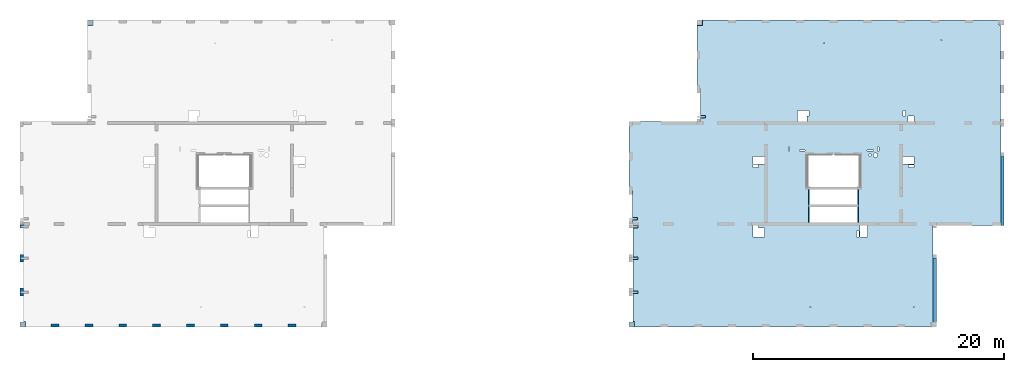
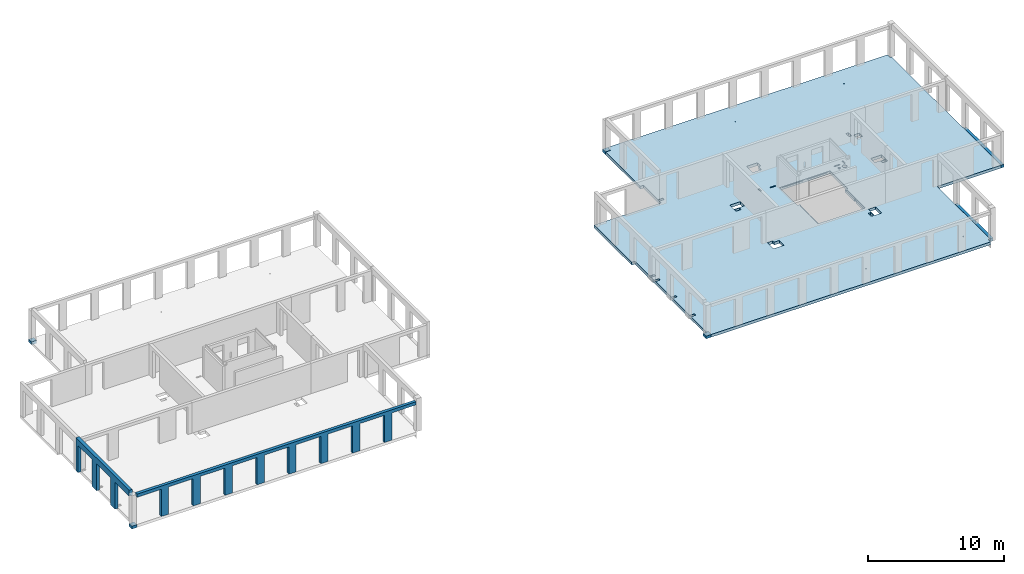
# One storey, part 2 of 13: 7 slabs, 2 walls, 46 openings.
"""IFC2X3 building model written with IfcOpenShell, lengths in millimetres."""

import ifcopenshell
import ifcopenshell.guid

model = None  # the IFC model being written
_history = None  # IfcOwnerHistory: only IFC2X3 demands one
_inside = {}  # id of a spatial element -> (the spatial element, [elements in it])
_under = {}  # id of a project, library or spatial element -> (it, [spatial elements below it])
_declared = {}  # id of a project -> (the project, [libraries it declares])
_typed = {}  # id of a type object -> (the type object, [elements of that type])
_made_of = {}  # id of a material, layer set ... -> (it, [elements and type objects made of it])


def new_model(schema):
    """Start an empty IFC model of exactly this schema.

    Asked for "IFC4X3", IfcOpenShell would pick the latest addendum, in which some entities
    have other attributes; the version numbers below select the first issue.
    IFC2X3 requires an IfcOwnerHistory on every rooted entity: one is made here for all.
    """
    global model, _history
    if schema == "IFC4X3":
        model = ifcopenshell.file(schema_version=(4, 3, 0, 0))
    else:
        model = ifcopenshell.file(schema=schema)
    _inside.clear()
    _under.clear()
    _declared.clear()
    _typed.clear()
    _made_of.clear()
    _history = None
    if model.schema == "IFC2X3":
        org = make("IfcOrganization", Name="unknown")
        user = make(
            "IfcPersonAndOrganization",
            ThePerson=make("IfcPerson", FamilyName="unknown"),
            TheOrganization=org,
        )
        app = make(
            "IfcApplication",
            ApplicationDeveloper=org,
            Version="unknown",
            ApplicationFullName="unknown",
            ApplicationIdentifier="unknown",
        )
        _history = make(
            "IfcOwnerHistory",
            OwningUser=user,
            OwningApplication=app,
            ChangeAction="ADDED",
            CreationDate=0,
        )
    return model


def make(cls, **values):
    """One entity of the class cls with the attributes given. An attribute that is None is left unset."""
    return model.create_entity(
        cls, **{name: value for name, value in values.items() if value is not None}
    )


def entity(cls, *values):
    """Any entity or typed value of the class cls, its attributes in the order of the schema. None: left unset."""
    e = model.create_entity(cls)
    for i, value in enumerate(values):
        if value is not None:
            e[i] = value
    return e


def rooted(cls, **values):
    """An entity with a GlobalId (a new one), such as an element, a storey or a relation."""
    return make(cls, GlobalId=ifcopenshell.guid.new(), OwnerHistory=_history, **values)


def si_unit(unit_type, name, prefix=None):
    """IfcSIUnit, for example si_unit("LENGTHUNIT", "METRE", prefix="MILLI")."""
    return make("IfcSIUnit", UnitType=unit_type, Prefix=prefix, Name=name)


def converted_unit(unit_type, name, factor, base, dimensions=None, offset=None):
    """IfcConversionBasedUnit, such as the inch: factor (a typed value) times the base unit."""
    return make(
        "IfcConversionBasedUnit"
        if offset is None
        else "IfcConversionBasedUnitWithOffset",
        ConversionOffset=offset,
        Dimensions=None
        if dimensions is None
        else entity("IfcDimensionalExponents", *dimensions),
        UnitType=unit_type,
        Name=name,
        ConversionFactor=make(
            "IfcMeasureWithUnit", ValueComponent=factor, UnitComponent=base
        ),
    )


def derived_unit(unit_type, elements):
    """IfcDerivedUnit: a product of units, each with its exponent."""
    return make(
        "IfcDerivedUnit",
        Elements=[
            make("IfcDerivedUnitElement", Unit=unit, Exponent=power)
            for unit, power in elements
        ],
        UnitType=unit_type,
    )


def assignment(units):
    """IfcUnitAssignment: the units of a project."""
    return None if units is None else make("IfcUnitAssignment", Units=units)


def point(xyz):
    """IfcCartesianPoint."""
    return None if xyz is None else make("IfcCartesianPoint", Coordinates=xyz)


def direction(xyz):
    """IfcDirection."""
    return None if xyz is None else make("IfcDirection", DirectionRatios=xyz)


def frame(location, z_axis=None, x_axis=None):
    """IfcAxis2Placement3D, a coordinate frame: its origin and axes. An axis left out is left unset."""
    return make(
        "IfcAxis2Placement3D",
        Location=point(location),
        Axis=direction(z_axis),
        RefDirection=direction(x_axis),
    )


def frame_2d(location, x_axis=None):
    """IfcAxis2Placement2D, a coordinate frame in the plane: its origin and x axis."""
    return make(
        "IfcAxis2Placement2D", Location=point(location), RefDirection=direction(x_axis)
    )


def origin():
    """The frame at (0, 0, 0) with its axes left unset."""
    return frame((0.0, 0.0, 0.0))


def origin_2d_with_axis():
    """The frame at (0, 0) in the plane with the x axis (1, 0) written out."""
    return frame_2d((0.0, 0.0), x_axis=(1.0, 0.0))


def place(relative_to, where):
    """IfcLocalPlacement: puts the frame where relative to a parent placement (None: the world)."""
    return make(
        "IfcLocalPlacement", PlacementRelTo=relative_to, RelativePlacement=where
    )


def context(
    kind, dimensions, precision=None, world=None, true_north=None, identifier=None
):
    """IfcGeometricRepresentationContext, for example the 3D "Model" context."""
    return make(
        "IfcGeometricRepresentationContext",
        ContextIdentifier=identifier,
        ContextType=kind,
        CoordinateSpaceDimension=dimensions,
        Precision=precision,
        WorldCoordinateSystem=world,
        TrueNorth=true_north,
    )


def subcontext(parent, identifier, kind, view, scale=None):
    """IfcGeometricRepresentationSubContext, for example "Body" below "Model"."""
    return make(
        "IfcGeometricRepresentationSubContext",
        ContextIdentifier=identifier,
        ContextType=kind,
        ParentContext=parent,
        TargetScale=scale,
        TargetView=view,
    )


def project(units=None, contexts=None):
    """IfcProject with its units and contexts."""
    return rooted(
        "IfcProject",
        Name="project",
        RepresentationContexts=contexts,
        UnitsInContext=assignment(units),
    )


def spatial(cls, under=None, at=None, **own):
    """A site, building, storey or space (cls), placed at a placement, below another one or the project."""
    s = rooted(cls, ObjectPlacement=at, **own)
    if under is not None:
        _under.setdefault(under.id(), (under, []))[1].append(s)
    return s


def polyline(points):
    """IfcPolyline through the points."""
    return make("IfcPolyline", Points=[point(p) for p in points])


def profile(cls, at=None, kind="AREA", **sizes):
    """A parametric profile (cls). Its sizes go by their IFC names, for example OverallWidth=200.0."""
    return make(cls, ProfileType=kind, Position=at, **sizes)


def rectangle(**sizes):
    """IfcRectangleProfileDef."""
    return profile("IfcRectangleProfileDef", **sizes)


def circle(**sizes):
    """IfcCircleProfileDef."""
    return profile("IfcCircleProfileDef", **sizes)


def outline(outer, holes=None, kind="AREA"):
    """IfcArbitraryClosedProfileDef: a profile drawn as a closed curve; with holes, ...WithVoids."""
    if holes is None:
        return make("IfcArbitraryClosedProfileDef", ProfileType=kind, OuterCurve=outer)
    return make(
        "IfcArbitraryProfileDefWithVoids",
        ProfileType=kind,
        OuterCurve=outer,
        InnerCurves=holes,
    )


def extrude(swept, where, along, depth):
    """IfcExtrudedAreaSolid: the profile swept, set in the frame where, extruded along a direction by depth."""
    return make(
        "IfcExtrudedAreaSolid",
        SweptArea=swept,
        Position=where,
        ExtrudedDirection=direction(along),
        Depth=depth,
    )


def shape(context_of_items, identifier, shape_type, items):
    """IfcShapeRepresentation: the items that make up one representation, for example the "Body"."""
    return make(
        "IfcShapeRepresentation",
        ContextOfItems=context_of_items,
        RepresentationIdentifier=identifier,
        RepresentationType=shape_type,
        Items=items,
    )


def material(Name=None, Category=None):
    """IfcMaterial."""
    return make("IfcMaterial", Name=Name, Category=Category)


def layer(
    of_material, thickness, ventilated=None, Name=None, Category=None, Priority=None
):
    """IfcMaterialLayer: one layer of a wall or slab, of a material (None: an air gap)."""
    return make(
        "IfcMaterialLayer",
        Material=of_material,
        LayerThickness=thickness,
        IsVentilated=ventilated,
        Name=Name,
        Category=Category,
        Priority=Priority,
    )


def layer_set(layers, Name=None):
    """IfcMaterialLayerSet."""
    return make("IfcMaterialLayerSet", MaterialLayers=layers, LayerSetName=Name)


def layer_usage(for_layer_set, set_direction, sense, offset, extent=None):
    """IfcMaterialLayerSetUsage: how a layer set lies in its element."""
    return make(
        "IfcMaterialLayerSetUsage",
        ForLayerSet=for_layer_set,
        LayerSetDirection=set_direction,
        DirectionSense=sense,
        OffsetFromReferenceLine=offset,
        ReferenceExtent=extent,
    )


def made_of(thing, what):
    """Note that an element or type object is made of a material, layer set ...; save() writes the relation."""
    if what is not None:
        _made_of.setdefault(what.id(), (what, []))[1].append(thing)
    return thing


def type_object(cls, material=None, **own):
    """A type object (cls), such as IfcWallType, which elements share."""
    return made_of(rooted(cls, **own), material)


def element(
    cls,
    number,
    at=None,
    inside=None,
    cuts=None,
    type_object=None,
    material=None,
    context=None,
    identifier="Body",
    shape_type=None,
    held_by="IfcProductDefinitionShape",
    body=None,
    shapes=None,
    **own,
):
    """One element of the class cls, such as IfcWall. Its Tag is "e" and its number.

    at: its placement. inside: the storey or other place that contains it. cuts: it is an
    opening in that element (IfcRelVoidsElement). A single representation is given by context,
    identifier, shape_type and body (its items); several are given by shapes. held_by: the class
    of the entity that holds the representations. save() writes the other relations.
    """
    e = rooted(cls, Tag="e%d" % number, ObjectPlacement=at, **own)
    if body is not None:
        shapes = [shape(context, identifier, shape_type, body)]
    if shapes is not None:
        e.Representation = make(held_by, Representations=shapes)
    if inside is not None:
        _inside.setdefault(inside.id(), (inside, []))[1].append(e)
    if cuts is not None:
        rooted(
            "IfcRelVoidsElement", RelatingBuildingElement=cuts, RelatedOpeningElement=e
        )
    if type_object is not None:
        _typed.setdefault(type_object.id(), (type_object, []))[1].append(e)
    return made_of(e, material)


def aggregate(whole, parts):
    """IfcRelAggregates: a whole, such as a stair, and the parts it consists of."""
    return rooted("IfcRelAggregates", RelatingObject=whole, RelatedObjects=parts)


def save(model, path):
    """Write the relations noted so far, then the file.

    IfcRelAggregates (storeys below a building ...), IfcRelContainedInSpatialStructure (elements
    in a storey), IfcRelDefinesByType, IfcRelAssociatesMaterial and IfcRelDeclares: one each for
    every whole, place, type object, material and project.
    """
    for whole, parts in _under.values():
        aggregate(whole, parts)
    for where, things in _inside.values():
        rooted(
            "IfcRelContainedInSpatialStructure",
            RelatedElements=things,
            RelatingStructure=where,
        )
    for kind, things in _typed.values():
        rooted("IfcRelDefinesByType", RelatedObjects=things, RelatingType=kind)
    for what, things in _made_of.values():
        rooted("IfcRelAssociatesMaterial", RelatedObjects=things, RelatingMaterial=what)
    for by, libraries in _declared.values():
        rooted("IfcRelDeclares", RelatingContext=by, RelatedDefinitions=libraries)
    model.write(path)


model = new_model("IFC2X3")

# Units and contexts
model_context = context("Model", 3, precision=0.01, world=origin(), true_north=direction((6.12303176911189e-17, 1.0)))
body_context = subcontext(model_context, "Body", "Model", "MODEL_VIEW")
ifc_project = project(units=[si_unit("LENGTHUNIT", "METRE", prefix="MILLI"), si_unit("AREAUNIT", "SQUARE_METRE"), si_unit("VOLUMEUNIT", "CUBIC_METRE"), converted_unit("PLANEANGLEUNIT", "DEGREE", entity("IfcRatioMeasure", 0.0174532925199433), si_unit("PLANEANGLEUNIT", "RADIAN"), dimensions=[0, 0, 0, 0, 0, 0, 0]), si_unit("MASSUNIT", "GRAM", prefix="KILO"), derived_unit("MASSDENSITYUNIT", [(si_unit("MASSUNIT", "GRAM", prefix="KILO"), 1), (si_unit("LENGTHUNIT", "METRE"), -3)]), si_unit("TIMEUNIT", "SECOND"), si_unit("FREQUENCYUNIT", "HERTZ"), si_unit("THERMODYNAMICTEMPERATUREUNIT", "DEGREE_CELSIUS"), derived_unit("THERMALTRANSMITTANCEUNIT", [(si_unit("MASSUNIT", "GRAM", prefix="KILO"), 1), (si_unit("THERMODYNAMICTEMPERATUREUNIT", "KELVIN"), -1), (si_unit("TIMEUNIT", "SECOND"), -3)]), derived_unit("VOLUMETRICFLOWRATEUNIT", [(si_unit("LENGTHUNIT", "METRE"), 3), (si_unit("TIMEUNIT", "SECOND"), -1)]), si_unit("ELECTRICCURRENTUNIT", "AMPERE"), si_unit("ELECTRICVOLTAGEUNIT", "VOLT"), si_unit("POWERUNIT", "WATT"), si_unit("FORCEUNIT", "NEWTON", prefix="KILO"), si_unit("ILLUMINANCEUNIT", "LUX"), si_unit("LUMINOUSFLUXUNIT", "LUMEN"), si_unit("LUMINOUSINTENSITYUNIT", "CANDELA"), derived_unit("USERDEFINED", [(si_unit("MASSUNIT", "GRAM", prefix="KILO"), -1), (si_unit("LENGTHUNIT", "METRE"), -2), (si_unit("TIMEUNIT", "SECOND"), 3), (si_unit("LUMINOUSFLUXUNIT", "LUMEN"), 1)]), derived_unit("LINEARVELOCITYUNIT", [(si_unit("LENGTHUNIT", "METRE"), 1), (si_unit("TIMEUNIT", "SECOND"), -1)]), si_unit("PRESSUREUNIT", "PASCAL"), derived_unit("USERDEFINED", [(si_unit("LENGTHUNIT", "METRE"), -2), (si_unit("MASSUNIT", "GRAM", prefix="KILO"), 1), (si_unit("TIMEUNIT", "SECOND"), -2)])], contexts=[model_context])

# Site, building, storey
site_placement = place(None, origin())
site = spatial("IfcSite", under=ifc_project, at=site_placement, Name="Default", CompositionType="ELEMENT")
building_placement = place(site_placement, origin())
building = spatial("IfcBuilding", under=site, at=building_placement, Name="niet gebruiken", CompositionType="ELEMENT")
storey_placement = place(building_placement, frame((0.0, 0.0, 60120.0)))
storey = spatial("IfcBuildingStorey", under=building, at=storey_placement, Name="20 twintigste verdieping", CompositionType="ELEMENT", Elevation=60120.0)

# Slab, openings
ifc_material_1 = material(Name="NLRS_f2_beton ihwg")
ifc_layer_1 = layer(ifc_material_1, 250.0)
ifc_layer_set_1 = layer_set([ifc_layer_1], Name="Floor:NLRS_23.21_FL_beton ihwg d=250_gen")
ifc_layer_usage_1 = layer_usage(ifc_layer_set_1, "AXIS3", "POSITIVE", 0.0)
slab_1_placement = place(storey_placement, frame((75500.0, 28756.0, -340.0)))
slab_1 = element("IfcSlab", 1, at=slab_1_placement, inside=storey, material=ifc_layer_usage_1, Name="Floor:NLRS_23.21_FL_beton ihwg d=250_gen", ObjectType="Floor:NLRS_23.21_FL_beton ihwg d=250_gen", PredefinedType="FLOOR", context=body_context, shape_type="SweptSolid", body=[
    extrude(outline(polyline([(8995.0, 12250.0), (-14665.0, 12250.0), (-14665.0, 11840.0), (-14805.0, 11840.0), (-14805.0, 4060.0), (-14825.0, 4060.0), (-14825.0, -4150.0), (-9425.0, -4150.0), (-9425.0, -11890.0), (-9265.0, -11890.0), (-9265.0, -12250.0), (14395.0, -12250.0), (14395.0, -11820.0), (14535.0, -11820.0), (14535.0, -4040.0), (14555.0, -4040.0), (14555.0, -1350.0), (14825.0, -1350.0), (14825.0, 4150.0), (9155.0, 4150.0), (9155.0, 6750.0), (9425.0, 6750.0), (9425.0, 11820.0), (8995.0, 11820.0), (8995.0, 12250.0)])), frame((14825.0, 12250.0, 250.0), z_axis=(0.0, 0.0, -1.0), x_axis=(-1.0, 0.0, 0.0)), (0.0, 0.0, 1.0), 250.000000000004),
])
opening_1_placement = place(storey_placement, frame((75500.0, 28756.0, -340.0)))
element("IfcOpeningElement", 2, at=opening_1_placement, cuts=slab_1, ObjectType="Opening", context=body_context, shape_type="SweptSolid", body=[
    extrude(circle(Radius=37.5, at=frame_2d((-7875.0, -10650.0), x_axis=(1.0, 0.0))), frame((14825.0, 12250.0, 250.0), z_axis=(0.0, 0.0, -1.0), x_axis=(-1.0, 0.0, 0.0)), (0.0, 0.0, 1.0), 250.000000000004),
])
opening_2_placement = place(storey_placement, frame((75500.0, 28756.0, -340.0)))
element("IfcOpeningElement", 3, at=opening_2_placement, cuts=slab_1, ObjectType="Opening", context=body_context, shape_type="SweptSolid", body=[
    extrude(circle(Radius=37.5, at=frame_2d((-10075.0, 10650.0), x_axis=(1.0, 0.0))), frame((14825.0, 12250.0, 250.0), z_axis=(0.0, 0.0, -1.0), x_axis=(-1.0, 0.0, 0.0)), (0.0, 0.0, 1.0), 250.000000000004),
])
opening_3_placement = place(storey_placement, frame((75500.0, 28756.0, -340.0)))
element("IfcOpeningElement", 4, at=opening_3_placement, cuts=slab_1, ObjectType="Opening", context=body_context, shape_type="SweptSolid", body=[
    extrude(circle(Radius=37.5, at=frame_2d((-725.0, 10400.0), x_axis=(1.0, 0.0))), frame((14825.0, 12250.0, 250.0), z_axis=(0.0, 0.0, -1.0), x_axis=(-1.0, 0.0, 0.0)), (0.0, 0.0, 1.0), 250.000000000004),
])
opening_4_placement = place(storey_placement, frame((75500.0, 28756.0, -340.0)))
element("IfcOpeningElement", 5, at=opening_4_placement, cuts=slab_1, ObjectType="Opening", context=body_context, shape_type="SweptSolid", body=[
    extrude(circle(Radius=37.5, at=frame_2d((375.0, -10650.0), x_axis=(1.0, 0.0))), frame((14825.0, 12250.0, 250.0), z_axis=(0.0, 0.0, -1.0), x_axis=(-1.0, 0.0, 0.0)), (0.0, 0.0, 1.0), 250.000000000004),
])
opening_5_placement = place(slab_1_placement, origin())
element("IfcOpeningElement", 6, at=opening_5_placement, cuts=slab_1, ObjectType="Opening", context=body_context, shape_type="SweptSolid", body=[
    extrude(rectangle(XDim=109.999999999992, YDim=1220.0, at=origin_2d_with_axis()), frame((14344.999934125, 10380.0, 210.0)), (0.0, 0.0, 1.0), 39.9999999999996),
])
opening_6_placement = place(slab_1_placement, origin())
element("IfcOpeningElement", 7, at=opening_6_placement, cuts=slab_1, ObjectType="Opening", context=body_context, shape_type="SweptSolid", body=[
    extrude(rectangle(XDim=109.999999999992, YDim=1220.0, at=origin_2d_with_axis()), frame((18254.9997832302, 10380.0, 210.0)), (0.0, 0.0, 1.0), 39.9999999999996),
])
opening_7_placement = place(slab_1_placement, origin())
element("IfcOpeningElement", 8, at=opening_7_placement, cuts=slab_1, ObjectType="Opening", context=body_context, shape_type="SweptSolid", body=[
    extrude(rectangle(XDim=109.999999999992, YDim=1220.0, at=origin_2d_with_axis()), frame((18255.0, 8960.0, 210.0)), (0.0, 0.0, 1.0), 39.9999999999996),
])
opening_8_placement = place(slab_1_placement, origin())
element("IfcOpeningElement", 9, at=opening_8_placement, cuts=slab_1, ObjectType="Opening", context=body_context, shape_type="SweptSolid", body=[
    extrude(rectangle(XDim=109.999999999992, YDim=1220.0, at=origin_2d_with_axis()), frame((14344.9995993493, 8960.0, 210.0)), (0.0, 0.0, 1.0), 39.9999999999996),
])
opening_9_placement = place(slab_1_placement, origin())
element("IfcOpeningElement", 10, at=opening_9_placement, cuts=slab_1, ObjectType="Opening", context=body_context, shape_type="SweptSolid", body=[
    extrude(rectangle(XDim=399.999999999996, YDim=199.999999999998, at=origin_2d_with_axis()), frame((5870.0, 16765.0, 220.0)), (0.0, 0.0, 1.0), 30.0000000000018),
])
opening_10_placement = place(slab_1_placement, origin())
element("IfcOpeningElement", 11, at=opening_10_placement, cuts=slab_1, ObjectType="Opening", context=body_context, shape_type="SweptSolid", body=[
    extrude(rectangle(XDim=400.000000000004, YDim=200.000000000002, at=origin_2d_with_axis()), frame((470.0, 8630.0, 220.0)), (0.0, 0.0, 1.0), 30.0000000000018),
])
opening_11_placement = place(slab_1_placement, origin())
element("IfcOpeningElement", 12, at=opening_11_placement, cuts=slab_1, ObjectType="Opening", context=body_context, shape_type="SweptSolid", body=[
    extrude(rectangle(XDim=200.000000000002, YDim=400.000000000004, at=origin_2d_with_axis()), frame((490.0, 8000.0, 220.0), z_axis=(0.0, 0.0, 1.0), x_axis=(0.0, -1.0, 0.0)), (0.0, 0.0, 1.0), 30.0000000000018),
])
opening_12_placement = place(slab_1_placement, origin())
element("IfcOpeningElement", 13, at=opening_12_placement, cuts=slab_1, ObjectType="Opening", context=body_context, shape_type="SweptSolid", body=[
    extrude(rectangle(XDim=200.000000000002, YDim=400.000000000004, at=origin_2d_with_axis()), frame((490.0, 5500.0, 220.0), z_axis=(0.0, 0.0, 1.0), x_axis=(0.0, -1.0, 0.0)), (0.0, 0.0, 1.0), 30.0000000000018),
])
opening_13_placement = place(slab_1_placement, origin())
element("IfcOpeningElement", 14, at=opening_13_placement, cuts=slab_1, ObjectType="Opening", context=body_context, shape_type="SweptSolid", body=[
    extrude(rectangle(XDim=200.000000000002, YDim=400.000000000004, at=origin_2d_with_axis()), frame((490.0, 2800.0, 220.0), z_axis=(0.0, 0.0, 1.0), x_axis=(0.0, -1.0, 0.0)), (0.0, 0.0, 1.0), 30.0000000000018),
])
opening_14_placement = place(slab_1_placement, origin())
element("IfcOpeningElement", 15, at=opening_14_placement, cuts=slab_1, ObjectType="Opening", context=body_context, shape_type="SweptSolid", body=[
    extrude(rectangle(XDim=900.000000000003, YDim=730.000000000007, at=origin_2d_with_axis()), frame((13800.0, 16850.0, 0.0), z_axis=(0.0, 0.0, 1.0), x_axis=(0.0, 1.0, 0.0)), (0.0, 0.0, 1.0), 250.000000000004),
])
opening_15_placement = place(slab_1_placement, origin())
element("IfcOpeningElement", 16, at=opening_15_placement, cuts=slab_1, ObjectType="Opening", context=body_context, shape_type="SweptSolid", body=[
    extrude(rectangle(XDim=169.999999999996, YDim=450.000000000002, at=origin_2d_with_axis()), frame((14250.0, 17075.0, 0.0), z_axis=(0.0, 0.0, 1.0), x_axis=(-1.0, 0.0, 0.0)), (0.0, 0.0, 1.0), 250.000000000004),
])
opening_16_placement = place(slab_1_placement, origin())
element("IfcOpeningElement", 17, at=opening_16_placement, cuts=slab_1, ObjectType="Opening", context=body_context, shape_type="SweptSolid", body=[
    extrude(rectangle(XDim=900.000000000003, YDim=700.000000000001, at=origin_2d_with_axis()), frame((10325.0, 7550.0, 0.0), z_axis=(0.0, 0.0, 1.0), x_axis=(-1.0, 0.0, 0.0)), (0.0, 0.0, 1.0), 250.000000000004),
])
opening_17_placement = place(slab_1_placement, origin())
element("IfcOpeningElement", 18, at=opening_17_placement, cuts=slab_1, ObjectType="Opening", context=body_context, shape_type="SweptSolid", body=[
    extrude(rectangle(XDim=200.000000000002, YDim=450.000000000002, at=origin_2d_with_axis()), frame((10100.0, 8000.0, 0.0), z_axis=(0.0, 0.0, 1.0), x_axis=(0.0, -1.0, 0.0)), (0.0, 0.0, 1.0), 250.000000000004),
])
opening_18_placement = place(slab_1_placement, origin())
element("IfcOpeningElement", 19, at=opening_18_placement, cuts=slab_1, ObjectType="Opening", context=body_context, shape_type="SweptSolid", body=[
    extrude(rectangle(XDim=900.000000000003, YDim=600.000000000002, at=origin_2d_with_axis()), frame((10325.0, 13330.0, 0.0), z_axis=(0.0, 0.0, 1.0), x_axis=(-1.0, 0.0, 0.0)), (0.0, 0.0, 1.0), 250.000000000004),
])
opening_19_placement = place(slab_1_placement, origin())
element("IfcOpeningElement", 20, at=opening_19_placement, cuts=slab_1, ObjectType="Opening", context=body_context, shape_type="SweptSolid", body=[
    extrude(rectangle(XDim=450.000000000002, YDim=500.000000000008, at=origin_2d_with_axis()), frame((22475.0, 16625.0, 0.0), z_axis=(0.0, 0.0, 1.0), x_axis=(0.0, 1.0, 0.0)), (0.0, 0.0, 1.0), 250.000000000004),
])
opening_20_placement = place(slab_1_placement, origin())
element("IfcOpeningElement", 21, at=opening_20_placement, cuts=slab_1, ObjectType="Opening", context=body_context, shape_type="SweptSolid", body=[
    extrude(rectangle(XDim=899.999999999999, YDim=600.000000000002, at=origin_2d_with_axis()), frame((18729.9818996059, 7650.0, 0.0), z_axis=(0.0, 0.0, 1.0), x_axis=(0.0, 1.0, 0.0)), (0.0, 0.0, 1.0), 250.000000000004),
])
opening_21_placement = place(slab_1_placement, origin())
element("IfcOpeningElement", 22, at=opening_21_placement, cuts=slab_1, ObjectType="Opening", context=body_context, shape_type="SweptSolid", body=[
    extrude(rectangle(XDim=900.000000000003, YDim=600.000000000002, at=origin_2d_with_axis()), frame((22275.0, 13330.0, 0.0), z_axis=(0.0, 0.0, 1.0), x_axis=(-1.0, 0.0, 0.0)), (0.0, 0.0, 1.0), 250.000000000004),
])
opening_22_placement = place(slab_1_placement, origin())
element("IfcOpeningElement", 23, at=opening_22_placement, cuts=slab_1, ObjectType="Opening", context=body_context, shape_type="SweptSolid", body=[
    extrude(rectangle(XDim=1760.00000000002, YDim=23.0000000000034, at=origin_2d_with_axis()), frame((15244.9998491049, 13751.4999999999, 180.0)), (0.0, 0.0, 1.0), 40.0000000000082),
])
opening_23_placement = place(slab_1_placement, origin())
element("IfcOpeningElement", 24, at=opening_23_placement, cuts=slab_1, ObjectType="Opening", context=body_context, shape_type="SweptSolid", body=[
    extrude(rectangle(XDim=1760.0, YDim=23.0000000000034, at=origin_2d_with_axis()), frame((17354.999849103, 13751.4999999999, 180.0)), (0.0, 0.0, 1.0), 40.0000000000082),
])
opening_24_placement = place(slab_1_placement, origin())
element("IfcOpeningElement", 25, at=opening_24_placement, cuts=slab_1, ObjectType="Opening", context=body_context, shape_type="SweptSolid", body=[
    extrude(rectangle(XDim=100.000000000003, YDim=489.999999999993, at=origin_2d_with_axis()), frame((19225.0, 14090.0, 0.0), z_axis=(0.0, 0.0, 1.0), x_axis=(0.0, -1.0, 0.0)), (0.0, 0.0, 1.0), 250.000000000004),
])
opening_25_placement = place(slab_1_placement, origin())
element("IfcOpeningElement", 26, at=opening_25_placement, cuts=slab_1, ObjectType="Opening", context=body_context, shape_type="SweptSolid", body=[
    extrude(rectangle(XDim=99.9999999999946, YDim=340.000000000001, at=origin_2d_with_axis()), frame((19865.0, 14210.0, 0.0), z_axis=(0.0, 0.0, 1.0), x_axis=(-1.0, 0.0, 0.0)), (0.0, 0.0, 1.0), 250.000000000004),
])
opening_26_placement = place(slab_1_placement, origin())
element("IfcOpeningElement", 27, at=opening_26_placement, cuts=slab_1, ObjectType="Opening", context=body_context, shape_type="SweptSolid", body=[
    extrude(rectangle(XDim=100.000000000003, YDim=440.000000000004, at=origin_2d_with_axis()), frame((13805.0, 14090.0, 0.0), z_axis=(0.0, 0.0, 1.0), x_axis=(0.0, -1.0, 0.0)), (0.0, 0.0, 1.0), 250.000000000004),
])
opening_27_placement = place(slab_1_placement, origin())
element("IfcOpeningElement", 28, at=opening_27_placement, cuts=slab_1, ObjectType="Opening", context=body_context, shape_type="SweptSolid", body=[
    extrude(rectangle(XDim=99.9999999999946, YDim=340.000000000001, at=origin_2d_with_axis()), frame((12755.0, 14210.0, 0.0), z_axis=(0.0, 0.0, 1.0), x_axis=(-1.0, 0.0, 0.0)), (0.0, 0.0, 1.0), 250.000000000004),
])
opening_28_placement = place(slab_1_placement, origin())
element("IfcOpeningElement", 29, at=opening_28_placement, cuts=slab_1, ObjectType="Opening", context=body_context, shape_type="SweptSolid", body=[
    extrude(rectangle(XDim=230.0, YDim=450.000000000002, at=origin_2d_with_axis()), frame((10100.0000865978, 12845.0002270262, 0.0), z_axis=(0.0, 0.0, 1.0), x_axis=(0.0, -1.0, 0.0)), (0.0, 0.0, 1.0), 250.000000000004),
])
opening_29_placement = place(slab_1_placement, origin())
element("IfcOpeningElement", 30, at=opening_29_placement, cuts=slab_1, ObjectType="Opening", context=body_context, shape_type="SweptSolid", body=[
    extrude(rectangle(XDim=220.000000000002, YDim=450.000000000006, at=origin_2d_with_axis()), frame((18240.0, 7425.0, 0.0)), (0.0, 0.0, 1.0), 250.000000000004),
])
opening_30_placement = place(slab_1_placement, origin())
element("IfcOpeningElement", 31, at=opening_30_placement, cuts=slab_1, ObjectType="Opening", context=body_context, shape_type="SweptSolid", body=[
    extrude(rectangle(XDim=220.000000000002, YDim=450.000000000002, at=origin_2d_with_axis()), frame((22500.0, 12840.0, 0.0), z_axis=(0.0, 0.0, 1.0), x_axis=(0.0, -1.0, 0.0)), (0.0, 0.0, 1.0), 250.000000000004),
])
opening_31_placement = place(slab_1_placement, origin())
element("IfcOpeningElement", 32, at=opening_31_placement, cuts=slab_1, ObjectType="Opening", context=body_context, shape_type="SweptSolid", body=[
    extrude(rectangle(XDim=220.000000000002, YDim=450.000000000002, at=origin_2d_with_axis()), frame((21935.0, 17075.0, 0.0), z_axis=(0.0, 0.0, 1.0), x_axis=(-1.0, 0.0, 0.0)), (0.0, 0.0, 1.0), 250.000000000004),
])
opening_32_placement = place(slab_1_placement, origin())
element("IfcOpeningElement", 33, at=opening_32_placement, cuts=slab_1, ObjectType="Opening", context=body_context, shape_type="SweptSolid", body=[
    extrude(circle(Radius=100.0, at=origin_2d_with_axis()), frame((19200.0, 13720.0, 0.0)), (0.0, 0.0, 1.0), 250.000000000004),
])
opening_33_placement = place(slab_1_placement, origin())
element("IfcOpeningElement", 34, at=opening_33_placement, cuts=slab_1, ObjectType="Opening", context=body_context, shape_type="SweptSolid", body=[
    extrude(circle(Radius=177.5, at=origin_2d_with_axis()), frame((19650.0, 13720.0, 0.0)), (0.0, 0.0, 1.0), 250.000000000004),
])
opening_34_placement = place(slab_1_placement, frame((16299.999929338, 10378.7499999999, 250.0)))
element("IfcOpeningElement", 35, at=opening_34_placement, cuts=slab_1, Name="Floor:NLRS_23.21_FL_beton ihwg d=250_gen:2", ObjectType="Opening", context=body_context, shape_type="SweptSolid", body=[
    extrude(outline(polyline([(-1899.99985389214, -2028.75), (1899.99999521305, -2028.75), (1899.99999521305, -808.749999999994), (1999.9999293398, -808.749999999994), (1999.9999293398, -608.749999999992), (1899.99999521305, -608.749999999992), (1899.99999521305, 751.250000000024), (2134.99992933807, 751.250000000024), (2134.99992933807, 3361.25000000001), (-2135.00007065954, 3361.25000000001), (-2135.00007065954, 751.250000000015), (-1899.99985389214, 751.250000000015), (-1899.99985389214, -608.750000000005), (-2000.00007066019, -608.750000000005), (-2000.00007066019, -808.750000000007), (-1899.99985389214, -808.750000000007), (-1899.99985389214, -2028.75)])), frame((0.0, 0.0, 0.0), z_axis=(0.0, 0.0, -1.0), x_axis=(-1.0, 0.0, 0.0)), (0.0, 0.0, 1.0), 250.000000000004),
])

# Slabs
ifc_layer_usage_2 = layer_usage(ifc_layer_set_1, "AXIS3", "POSITIVE", 0.0)
slab_2_placement = place(storey_placement, origin())
element("IfcSlab", 36, at=slab_2_placement, inside=storey, material=ifc_layer_usage_2, Name="Floor:NLRS_23.21_FL_beton ihwg d=250_gen", ObjectType="Floor:NLRS_23.21_FL_beton ihwg d=250_gen", PredefinedType="FLOOR", context=body_context, shape_type="SweptSolid", body=[
    extrude(rectangle(XDim=5140.00000000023, YDim=250.000065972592, at=frame_2d((0.0, 8.66151594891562e-12), x_axis=(1.0, 0.0))), frame((99875.0, 31686.0, -90.0), z_axis=(0.0, 0.0, -1.0), x_axis=(0.0, 1.0, 0.0)), (0.0, 0.0, 1.0), 250.000000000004),
])
ifc_layer_usage_3 = layer_usage(ifc_layer_set_1, "AXIS3", "POSITIVE", 0.0)
slab_3_placement = place(storey_placement, origin())
element("IfcSlab", 37, at=slab_3_placement, inside=storey, material=ifc_layer_usage_3, Name="Floor:NLRS_23.21_FL_beton ihwg d=250_gen", ObjectType="Floor:NLRS_23.21_FL_beton ihwg d=250_gen", PredefinedType="FLOOR", context=body_context, shape_type="SweptSolid", body=[
    extrude(rectangle(XDim=5500.00000000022, YDim=249.999999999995, at=frame_2d((2.04636307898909e-12, -8.66151594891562e-12), x_axis=(1.0, 0.0))), frame((105275.0, 39606.0, -90.0), z_axis=(0.0, 0.0, -1.0), x_axis=(0.0, 1.0, 0.0)), (0.0, 0.0, 1.0), 250.000000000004),
])
ifc_layer_usage_4 = layer_usage(ifc_layer_set_1, "AXIS3", "POSITIVE", 0.0)
slab_4_placement = place(storey_placement, origin())
element("IfcSlab", 38, at=slab_4_placement, inside=storey, material=ifc_layer_usage_4, Name="Floor:NLRS_23.21_FL_beton ihwg d=250_gen", ObjectType="Floor:NLRS_23.21_FL_beton ihwg d=250_gen", PredefinedType="FLOOR", context=body_context, shape_type="SweptSolid", body=[
    extrude(outline(polyline([(-280.0, -240.0), (130.0, -240.0), (130.0, 50.0), (150.0, 50.0), (150.0, 190.0), (-280.0, 190.0), (-280.0, -240.0)])), frame((27140.0, 29036.0, -90.0), z_axis=(0.0, 0.0, -1.0), x_axis=(0.0, 1.0, 0.0)), (0.0, 0.0, 1.0), 250.000000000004),
])
ifc_layer_usage_5 = layer_usage(ifc_layer_set_1, "AXIS3", "POSITIVE", 0.0)
slab_5_placement = place(storey_placement, origin())
element("IfcSlab", 39, at=slab_5_placement, inside=storey, material=ifc_layer_usage_5, Name="Floor:NLRS_23.21_FL_beton ihwg d=250_gen", ObjectType="Floor:NLRS_23.21_FL_beton ihwg d=250_gen", PredefinedType="FLOOR", context=body_context, shape_type="SweptSolid", body=[
    extrude(outline(polyline([(-280.0, -240.0), (130.0, -240.0), (130.0, 50.0), (150.0, 50.0), (150.0, 190.0), (-280.0, 190.0), (-280.0, -240.0)])), frame((75740.0, 29036.0, -90.0), z_axis=(0.0, 0.0, -1.0), x_axis=(0.0, 1.0, 0.0)), (0.0, 0.0, 1.0), 250.000000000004),
])
ifc_layer_usage_6 = layer_usage(ifc_layer_set_1, "AXIS3", "POSITIVE", 0.0)
slab_6_placement = place(storey_placement, origin())
element("IfcSlab", 40, at=slab_6_placement, inside=storey, material=ifc_layer_usage_6, Name="Floor:NLRS_23.21_FL_beton ihwg d=250_gen", ObjectType="Floor:NLRS_23.21_FL_beton ihwg d=250_gen", PredefinedType="FLOOR", context=body_context, shape_type="SweptSolid", body=[
    extrude(rectangle(XDim=430.000000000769, YDim=429.999999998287, at=frame_2d((0.0, 2.17426077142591e-12), x_axis=(1.0, 0.0))), frame((32515.0, 53041.0, -90.0), z_axis=(0.0, 0.0, -1.0), x_axis=(0.0, 1.0, 0.0)), (0.0, 0.0, 1.0), 250.000000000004),
])
ifc_layer_usage_7 = layer_usage(ifc_layer_set_1, "AXIS3", "POSITIVE", 0.0)
slab_7_placement = place(storey_placement, origin())
element("IfcSlab", 41, at=slab_7_placement, inside=storey, material=ifc_layer_usage_7, Name="Floor:NLRS_23.21_FL_beton ihwg d=250_gen", ObjectType="Floor:NLRS_23.21_FL_beton ihwg d=250_gen", PredefinedType="FLOOR", context=body_context, shape_type="SweptSolid", body=[
    extrude(rectangle(XDim=430.000000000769, YDim=429.999999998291, at=frame_2d((0.0, -8.66862137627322e-12), x_axis=(1.0, 0.0))), frame((81115.0, 53041.0, -90.0), z_axis=(0.0, 0.0, -1.0), x_axis=(0.0, 1.0, 0.0)), (0.0, 0.0, 1.0), 250.000000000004),
])

# Wall, openings
ifc_layer_2 = layer(ifc_material_1, 250.0)
ifc_layer_set_2 = layer_set([ifc_layer_2], Name="Basic Wall:NLRS_21.21_WA_beton ihwg d=250_gen")
ifc_layer_usage_8 = layer_usage(ifc_layer_set_2, "AXIS2", "NEGATIVE", 125.0)
wall_type_1 = type_object("IfcWallType", Name="Basic Wall:NLRS_21.21_WA_beton ihwg d=250_gen", PredefinedType="STANDARD", material=ifc_layer_set_2)
wall_1_placement = place(storey_placement, frame((27330.0, 28881.0, -90.0)))
wall_1 = element("IfcWallStandardCase", 42, at=wall_1_placement, inside=storey, type_object=wall_type_1, material=ifc_layer_usage_8, Name="Basic Wall:NLRS_21.21_WA_beton ihwg d=250_gen", ObjectType="Basic Wall:NLRS_21.21_WA_beton ihwg d=250_gen", context=body_context, shape_type="SweptSolid", body=[
    extrude(rectangle(XDim=23640.0000000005, YDim=250.000000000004, at=frame_2d((11820.0000000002, -8.66862137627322e-13), x_axis=(-1.0, 0.0))), origin(), (0.0, 0.0, 1.0), 2720.00000000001),
])
opening_35_placement = place(wall_1_placement, origin())
element("IfcOpeningElement", 43, at=opening_35_placement, cuts=wall_1, Name="Basic Wall:NLRS_21.21_WA_beton ihwg d=250_gen", ObjectType="Opening", context=body_context, shape_type="SweptSolid", body=[
    extrude(rectangle(XDim=2440.0, YDim=2080.0, at=frame_2d((0.0, 0.0), x_axis=(0.0, 1.0))), frame((22620.0, -1399.0, 1220.0), z_axis=(0.0, 1.0, 0.0), x_axis=(-1.0, 0.0, 0.0)), (0.0, 0.0, 1.0), 3048.0),
])
opening_36_placement = place(wall_1_placement, origin())
element("IfcOpeningElement", 44, at=opening_36_placement, cuts=wall_1, Name="Basic Wall:NLRS_21.21_WA_beton ihwg d=250_gen", ObjectType="Opening", context=body_context, shape_type="SweptSolid", body=[
    extrude(rectangle(XDim=2440.0, YDim=2080.0, at=frame_2d((0.0, 0.0), x_axis=(0.0, 1.0))), frame((19920.0, -1399.0, 1220.0), z_axis=(0.0, 1.0, 0.0), x_axis=(-1.0, 0.0, 0.0)), (0.0, 0.0, 1.0), 3048.0),
])
opening_37_placement = place(wall_1_placement, origin())
element("IfcOpeningElement", 45, at=opening_37_placement, cuts=wall_1, Name="Basic Wall:NLRS_21.21_WA_beton ihwg d=250_gen", ObjectType="Opening", context=body_context, shape_type="SweptSolid", body=[
    extrude(rectangle(XDim=2440.0, YDim=2080.0, at=frame_2d((0.0, 0.0), x_axis=(0.0, 1.0))), frame((17220.0, -1399.0, 1220.0), z_axis=(0.0, 1.0, 0.0), x_axis=(-1.0, 0.0, 0.0)), (0.0, 0.0, 1.0), 3048.0),
])
opening_38_placement = place(wall_1_placement, origin())
element("IfcOpeningElement", 46, at=opening_38_placement, cuts=wall_1, Name="Basic Wall:NLRS_21.21_WA_beton ihwg d=250_gen", ObjectType="Opening", context=body_context, shape_type="SweptSolid", body=[
    extrude(rectangle(XDim=2440.0, YDim=2080.0, at=frame_2d((0.0, 0.0), x_axis=(0.0, 1.0))), frame((14520.0, -1399.0, 1220.0), z_axis=(0.0, 1.0, 0.0), x_axis=(-1.0, 0.0, 0.0)), (0.0, 0.0, 1.0), 3048.0),
])
opening_39_placement = place(wall_1_placement, origin())
element("IfcOpeningElement", 47, at=opening_39_placement, cuts=wall_1, Name="Basic Wall:NLRS_21.21_WA_beton ihwg d=250_gen", ObjectType="Opening", context=body_context, shape_type="SweptSolid", body=[
    extrude(rectangle(XDim=2440.0, YDim=2080.0, at=frame_2d((-4.32009983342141e-12, 0.0), x_axis=(0.0, 1.0))), frame((11820.0, -1399.0, 1220.0), z_axis=(0.0, 1.0, 0.0), x_axis=(-1.0, 0.0, 0.0)), (0.0, 0.0, 1.0), 3048.0),
])
opening_40_placement = place(wall_1_placement, origin())
element("IfcOpeningElement", 48, at=opening_40_placement, cuts=wall_1, Name="Basic Wall:NLRS_21.21_WA_beton ihwg d=250_gen", ObjectType="Opening", context=body_context, shape_type="SweptSolid", body=[
    extrude(rectangle(XDim=2440.0, YDim=2080.0, at=frame_2d((-2.1600499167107e-12, 0.0), x_axis=(0.0, 1.0))), frame((9120.0, -1399.0, 1220.0), z_axis=(0.0, 1.0, 0.0), x_axis=(-1.0, 0.0, 0.0)), (0.0, 0.0, 1.0), 3048.0),
])
opening_41_placement = place(wall_1_placement, origin())
element("IfcOpeningElement", 49, at=opening_41_placement, cuts=wall_1, Name="Basic Wall:NLRS_21.21_WA_beton ihwg d=250_gen", ObjectType="Opening", context=body_context, shape_type="SweptSolid", body=[
    extrude(rectangle(XDim=2440.0, YDim=2080.0, at=frame_2d((2.1600499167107e-12, 0.0), x_axis=(0.0, 1.0))), frame((6420.0, -1399.0, 1220.0), z_axis=(0.0, 1.0, 0.0), x_axis=(-1.0, 0.0, 0.0)), (0.0, 0.0, 1.0), 3048.0),
])
opening_42_placement = place(wall_1_placement, origin())
element("IfcOpeningElement", 50, at=opening_42_placement, cuts=wall_1, Name="Basic Wall:NLRS_21.21_WA_beton ihwg d=250_gen", ObjectType="Opening", context=body_context, shape_type="SweptSolid", body=[
    extrude(rectangle(XDim=2440.0, YDim=2080.0, at=frame_2d((2.1600499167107e-12, 0.0), x_axis=(0.0, 1.0))), frame((3720.0, -1399.0, 1220.0), z_axis=(0.0, 1.0, 0.0), x_axis=(-1.0, 0.0, 0.0)), (0.0, 0.0, 1.0), 3048.0),
])
opening_43_placement = place(wall_1_placement, origin())
element("IfcOpeningElement", 51, at=opening_43_placement, cuts=wall_1, Name="Basic Wall:NLRS_21.21_WA_beton ihwg d=250_gen", ObjectType="Opening", context=body_context, shape_type="SweptSolid", body=[
    extrude(rectangle(XDim=2440.0, YDim=2080.0, at=frame_2d((-2.1600499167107e-12, 0.0), x_axis=(0.0, 1.0))), frame((1020.0, -1399.0, 1220.0), z_axis=(0.0, 1.0, 0.0), x_axis=(-1.0, 0.0, 0.0)), (0.0, 0.0, 1.0), 3048.0),
])

ifc_material_2 = material(Name="NLRS_f2_beton prefab")
ifc_layer_3 = layer(ifc_material_2, 270.0)
ifc_layer_set_3 = layer_set([ifc_layer_3], Name="Basic Wall:NLRS_21.21_WA_beton prefab d=270_gen")
ifc_layer_usage_9 = layer_usage(ifc_layer_set_3, "AXIS2", "NEGATIVE", 135.0)
wall_type_2 = type_object("IfcWallType", Name="Basic Wall:NLRS_21.21_WA_beton prefab d=270_gen", PredefinedType="STANDARD", material=ifc_layer_set_3)
wall_2_placement = place(storey_placement, frame((27035.0, 36946.0, -70.0), z_axis=(0.0, 0.0, 1.0), x_axis=(0.0, -1.0, 0.0)))
wall_2 = element("IfcWallStandardCase", 52, at=wall_2_placement, inside=storey, type_object=wall_type_2, material=ifc_layer_usage_9, Name="Basic Wall:NLRS_21.21_WA_beton prefab d=270_gen", ObjectType="Basic Wall:NLRS_21.21_WA_beton prefab d=270_gen", context=body_context, shape_type="SweptSolid", body=[
    extrude(rectangle(XDim=7780.00000000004, YDim=269.999999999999, at=frame_2d((3890.00000000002, 0.0), x_axis=(-1.0, 0.0))), origin(), (0.0, 0.0, 1.0), 2950.00000000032),
])
opening_44_placement = place(wall_2_placement, origin())
element("IfcOpeningElement", 53, at=opening_44_placement, cuts=wall_2, Name="Basic Wall:NLRS_21.21_WA_beton prefab d=270_gen", ObjectType="Opening", context=body_context, shape_type="SweptSolid", body=[
    extrude(rectangle(XDim=2420.0, YDim=2080.0, at=frame_2d((-2.1600499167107e-12, 0.0), x_axis=(0.0, 1.0))), frame((1340.0, -1389.0, 1210.0), z_axis=(0.0, 1.0, 0.0), x_axis=(-1.0, 0.0, 0.0)), (0.0, 0.0, 1.0), 3048.0),
])
opening_45_placement = place(wall_2_placement, origin())
element("IfcOpeningElement", 54, at=opening_45_placement, cuts=wall_2, Name="Basic Wall:NLRS_21.21_WA_beton prefab d=270_gen", ObjectType="Opening", context=body_context, shape_type="SweptSolid", body=[
    extrude(rectangle(XDim=2420.0, YDim=2080.0, at=frame_2d((2.1600499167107e-12, 0.0), x_axis=(0.0, 1.0))), frame((4040.0, -1389.0, 1210.0), z_axis=(0.0, 1.0, 0.0), x_axis=(-1.0, 0.0, 0.0)), (0.0, 0.0, 1.0), 3048.0),
])
opening_46_placement = place(wall_2_placement, origin())
element("IfcOpeningElement", 55, at=opening_46_placement, cuts=wall_2, Name="Basic Wall:NLRS_21.21_WA_beton prefab d=270_gen", ObjectType="Opening", context=body_context, shape_type="SweptSolid", body=[
    extrude(rectangle(XDim=2420.0, YDim=2080.0, at=frame_2d((2.1600499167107e-12, 0.0), x_axis=(0.0, 1.0))), frame((6740.0, -1389.0, 1210.0), z_axis=(0.0, 1.0, 0.0), x_axis=(-1.0, 0.0, 0.0)), (0.0, 0.0, 1.0), 3048.0),
])

save(model, "model.ifc")
